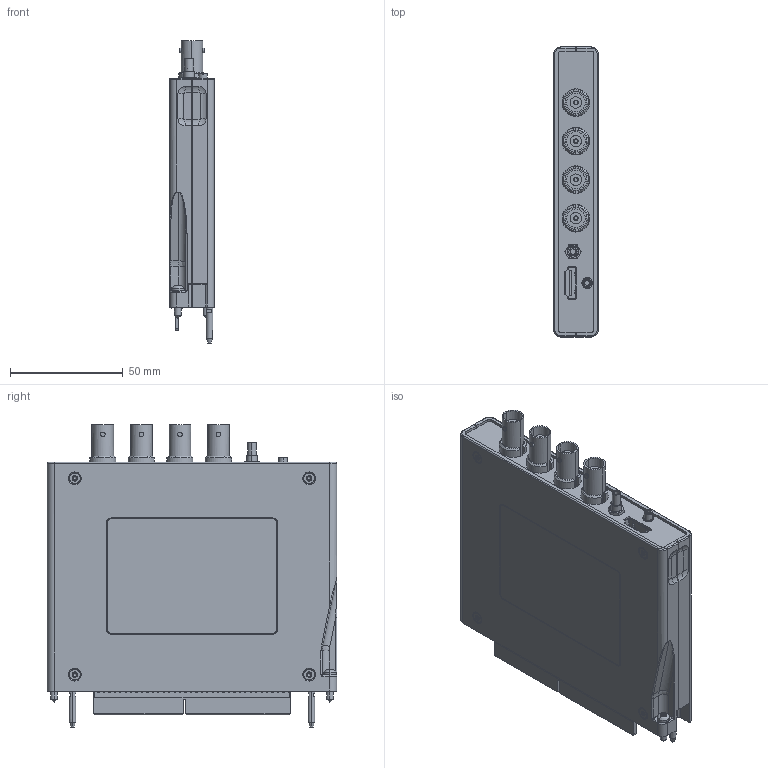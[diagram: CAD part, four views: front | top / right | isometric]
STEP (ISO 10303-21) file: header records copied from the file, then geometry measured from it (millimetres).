
FILE_DESCRIPTION((''),'2;1');
FILE_NAME('CU_FAM2_NI-5734','2012-01-12T',('jjorden'),(''),'PRO/ENGINEER BY PARAMETRIC TECHNOLOGY CORPORATION, 2010230','PRO/ENGINEER BY PARAMETRIC TECHNOLOGY CORPORATION, 2010230','');
FILE_SCHEMA(('CONFIG_CONTROL_DESIGN'));
Products named in the file (1): CU_FAM2_NI-5734
Bounding box: 19.81 x 128.68 x 134.17 mm (x, y, z)
Volume: 78019.5 mm3; surface area: 112433.7 mm2
Topology: 4 solids, 5 shells, 3212 faces, 7473 edges, 4306 vertices
Faces by surface type: plane 1472, cylinder 1172, bspline 380, cone 120, sphere 40, torus 28
Entity records: 111792 total; most frequent: CARTESIAN_POINT 42114, ORIENTED_EDGE 14890, DIRECTION 13601, EDGE_CURVE 7445, AXIS2_PLACEMENT_3D 4658, VERTEX_POINT 4344, VECTOR 4285, LINE 4285
